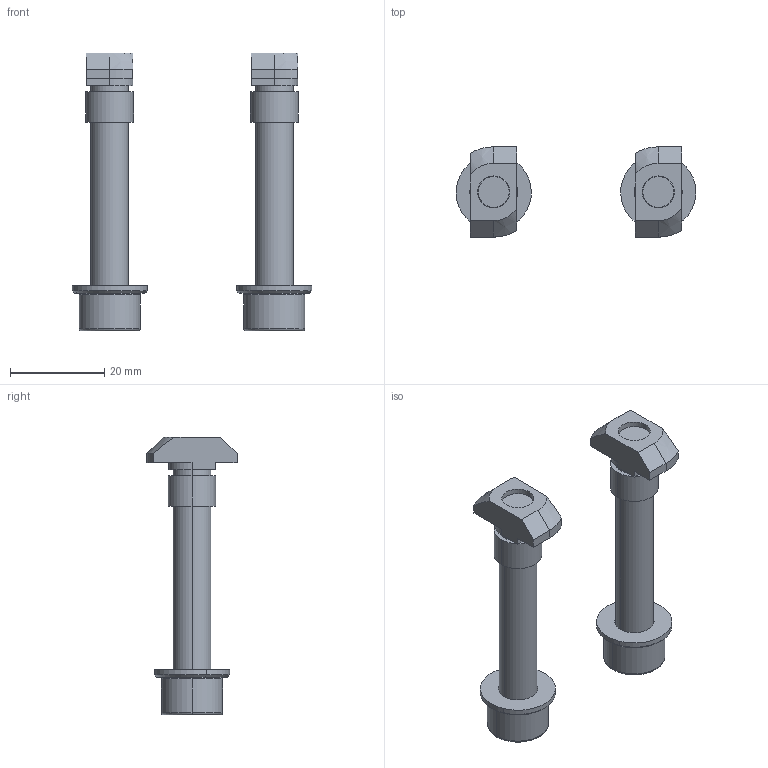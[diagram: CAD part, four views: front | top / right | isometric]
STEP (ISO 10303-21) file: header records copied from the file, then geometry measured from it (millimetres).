
FILE_DESCRIPTION (( 'STEP AP203' ), '1' );
FILE_NAME ('75000002.STEP', '2016-11-17T16:33:08', ( '' ), ( '' ), 'SwSTEP 2.0', 'SolidWorks 2015', '' );
FILE_SCHEMA (( 'CONFIG_CONTROL_DESIGN' ));
Length unit declared in the file: millimetre
Products named in the file (1): 75000002
Bounding box: 50.98 x 19.2 x 59.1 mm (x, y, z)
Volume: 9088.3 mm3; surface area: 6110.1 mm2
Topology: 2 solids, 2 shells, 112 faces, 256 edges, 164 vertices
Faces by surface type: plane 52, cylinder 40, cone 16, torus 4
Entity records: 3483 total; most frequent: CARTESIAN_POINT 801, DIRECTION 566, ORIENTED_EDGE 512, EDGE_CURVE 256, AXIS2_PLACEMENT_3D 209, VERTEX_POINT 164, VECTOR 148, LINE 148
